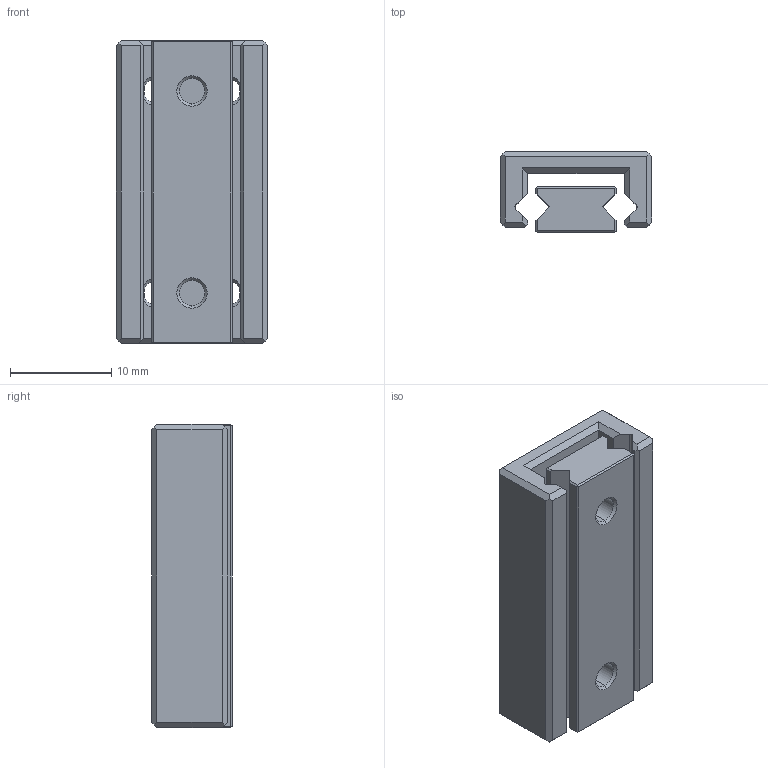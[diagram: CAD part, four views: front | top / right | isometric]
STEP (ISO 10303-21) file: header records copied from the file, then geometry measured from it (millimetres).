
FILE_DESCRIPTION (( 'STEP AP214' ), '1' );
FILE_NAME ('PMM 2-30.STEP', '2012-03-02T11:36:47', ( '' ), ( '' ), 'SwSTEP 2.0', 'SolidWorks 2011', '' );
FILE_SCHEMA (( 'AUTOMOTIVE_DESIGN' ));
Length unit declared in the file: millimetre
Products named in the file (1): PMM 2-30
Bounding box: 15 x 8 x 30 mm (x, y, z)
Volume: 2566 mm3; surface area: 2719.5 mm2
Topology: 2 solids, 2 shells, 256 faces, 708 edges, 468 vertices
Faces by surface type: plane 174, bspline 43, cone 24, cylinder 15
Entity records: 12009 total; most frequent: CARTESIAN_POINT 4072, ORIENTED_EDGE 1416, DIRECTION 1120, EDGE_CURVE 708, VECTOR 544, LINE 544, VERTEX_POINT 468, AXIS2_PLACEMENT_3D 288
